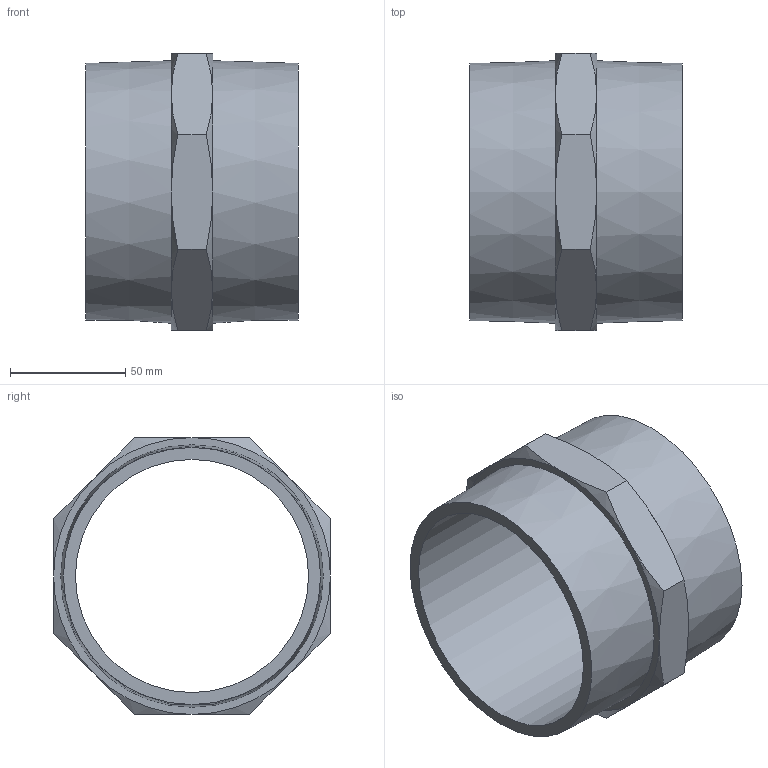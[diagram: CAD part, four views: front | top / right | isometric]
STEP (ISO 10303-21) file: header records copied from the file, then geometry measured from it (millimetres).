
FILE_DESCRIPTION(/* description */ (''),/* implementation_level */ '2;1');
FILE_NAME(/* name */ 'C:\Users\D\Documents\Inventor\各種小物\JIS\ニップル\4.stp',/* time_stamp */ '2022-06-22T15:38:16+09:00',/* author */ ('D'),/* organization */ (''),/* preprocessor_version */ 'ST-DEVELOPER v18',/* originating_system */ 'Autodesk Inventor 2020',/* authorisation */ '');
FILE_SCHEMA (('AUTOMOTIVE_DESIGN { 1 0 10303 214 3 1 1 }'));
Length unit declared in the file: millimetre
Products named in the file (1): 2
Bounding box: 92 x 120 x 120 mm (x, y, z)
Volume: 213028.8 mm3; surface area: 68978 mm2
Topology: 1 solids, 1 shells, 31 faces, 69 edges, 42 vertices
Faces by surface type: cone 18, plane 12, cylinder 1
Full cylindrical faces by diameter (mm): 101.03 x1
Entity records: 866 total; most frequent: CARTESIAN_POINT 207, ORIENTED_EDGE 138, DIRECTION 127, EDGE_CURVE 69, AXIS2_PLACEMENT_3D 58, VERTEX_POINT 42, EDGE_LOOP 35, FACE_OUTER_BOUND 31
